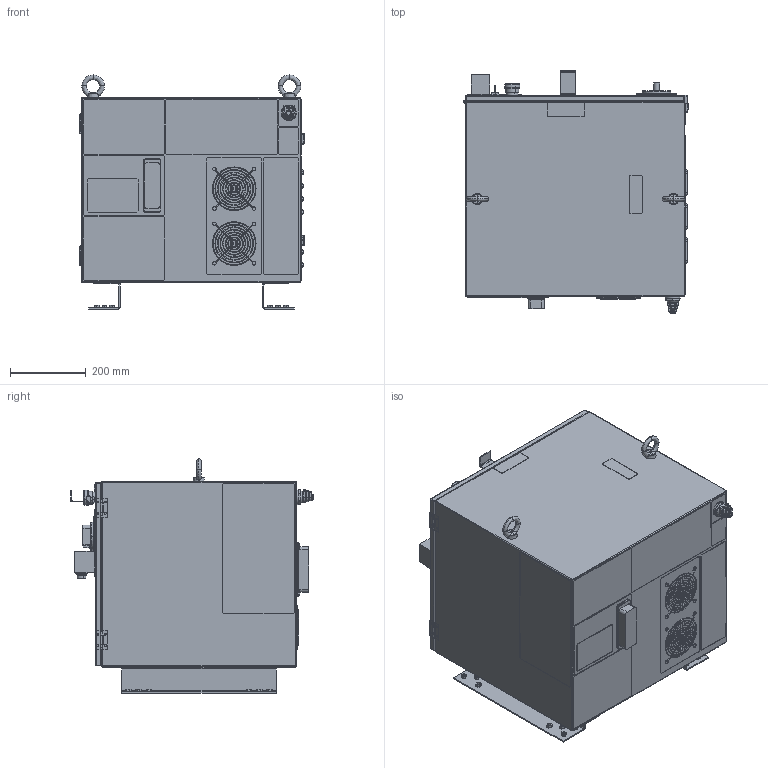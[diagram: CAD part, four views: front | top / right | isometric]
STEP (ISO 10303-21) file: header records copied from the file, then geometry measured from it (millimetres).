
FILE_DESCRIPTION(('CATIA V5 STEP Exchange'),'2;1');
FILE_NAME('C:\Users\rbt00138\Desktop\Controller\FD20\FD20_AS\FD20-x01_2022519\FD20-x01_TR_mount.stp','2022-05-19T01:39:20+00:00',('none'),('none'),'CATIA Version 5-6 Release 2016 SP3','CATIA V5 STEP AP203','none');
FILE_SCHEMA(('CONFIG_CONTROL_DESIGN'));
Products named in the file (1): FD20-x01_TR_mount
Bounding box: 596.5 x 642 x 620 mm (x, y, z)
Volume: 153014955.8 mm3; surface area: 2427960.8 mm2
Topology: 47 solids, 47 shells, 1959 faces, 5161 edges, 3289 vertices
Faces by surface type: plane 1097, cylinder 615, revolution 225, bspline 22
Entity records: 70067 total; most frequent: CARTESIAN_POINT 23465, ORIENTED_EDGE 10178, DIRECTION 7984, EDGE_CURVE 5089, VERTEX_POINT 3289, AXIS2_PLACEMENT_3D 3031, VECTOR 3017, LINE 3017
